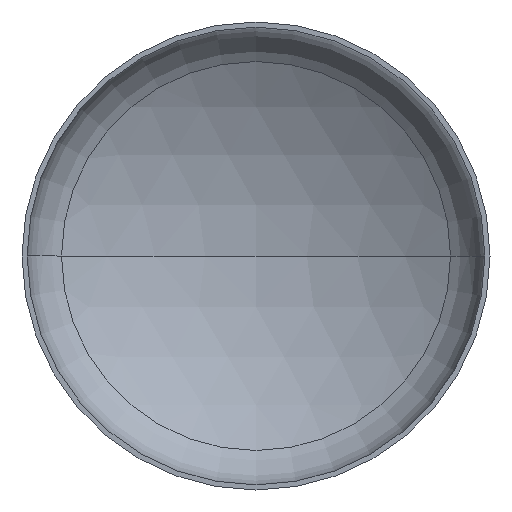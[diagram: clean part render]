
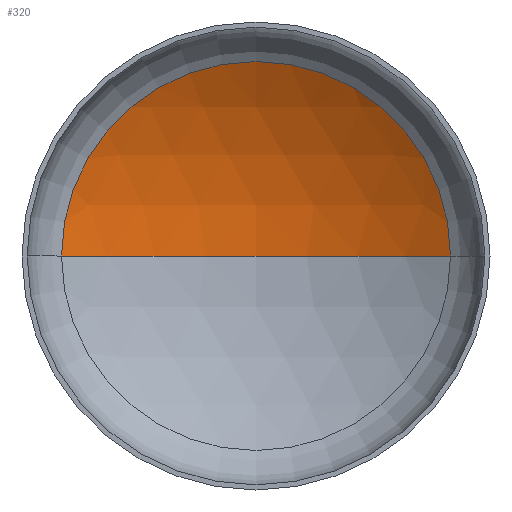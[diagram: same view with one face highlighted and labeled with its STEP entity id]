
A CAD part, front view. The second image highlights one B-rep face of the part: STEP entity #320.
In plain terms, the highlighted spherical face has radius 1520 mm.
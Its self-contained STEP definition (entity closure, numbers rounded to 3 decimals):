
#14 = AXIS2_PLACEMENT_3D ( 'NONE', #113, #294, #325 ) ;
#18 = DIRECTION ( 'NONE',  ( 1., 0., 0. ) ) ;
#25 = DIRECTION ( 'NONE',  ( 0., -1., 0. ) ) ;
#27 = ORIENTED_EDGE ( 'NONE', *, *, #149, .T. ) ;
#28 = ORIENTED_EDGE ( 'NONE', *, *, #156, .F. ) ;
#30 = AXIS2_PLACEMENT_3D ( 'NONE', #201, #253, #252 ) ;
#34 = AXIS2_PLACEMENT_3D ( 'NONE', #384, #233, #259 ) ;
#35 = AXIS2_PLACEMENT_3D ( 'NONE', #143, #25, #18 ) ;
#49 = EDGE_LOOP ( 'NONE', ( #28, #27, #195 ) ) ;
#50 = VERTEX_POINT ( 'NONE', #244 ) ;
#93 = CIRCLE ( 'NONE', #34, 1520. ) ;
#96 = VERTEX_POINT ( 'NONE', #290 ) ;
#113 = CARTESIAN_POINT ( 'NONE',  ( 0., -980.99, 0. ) ) ;
#128 = EDGE_CURVE ( 'NONE', #96, #189, #274, .T. ) ;
#143 = CARTESIAN_POINT ( 'NONE',  ( 0., 317.794, 0. ) ) ;
#149 = EDGE_CURVE ( 'NONE', #50, #96, #93, .T. ) ;
#155 = CARTESIAN_POINT ( 'NONE',  ( -789.659, 317.794, 0. ) ) ;
#156 = EDGE_CURVE ( 'NONE', #50, #189, #271, .T. ) ;
#189 = VERTEX_POINT ( 'NONE', #155 ) ;
#195 = ORIENTED_EDGE ( 'NONE', *, *, #128, .T. ) ;
#201 = CARTESIAN_POINT ( 'NONE',  ( 0., -980.99, 0. ) ) ;
#233 = DIRECTION ( 'NONE',  ( 0., 0., -1. ) ) ;
#244 = CARTESIAN_POINT ( 'NONE',  ( 0., 539.01, 0. ) ) ;
#252 = DIRECTION ( 'NONE',  ( 1., 0., 0. ) ) ;
#253 = DIRECTION ( 'NONE',  ( 0., 0., 1. ) ) ;
#259 = DIRECTION ( 'NONE',  ( -1., 0., 0. ) ) ;
#271 = CIRCLE ( 'NONE', #30, 1520. ) ;
#274 = CIRCLE ( 'NONE', #35, 789.659 ) ;
#290 = CARTESIAN_POINT ( 'NONE',  ( 789.659, 317.794, 0. ) ) ;
#294 = DIRECTION ( 'NONE',  ( 0., 0., -1. ) ) ;
#304 = SPHERICAL_SURFACE ( 'NONE', #14, 1520. ) ;
#313 = FACE_OUTER_BOUND ( 'NONE', #49, .T. ) ;
#320 = ADVANCED_FACE ( 'NONE', ( #313 ), #304, .F. ) ;
#325 = DIRECTION ( 'NONE',  ( -1., 0., 0. ) ) ;
#384 = CARTESIAN_POINT ( 'NONE',  ( 0., -980.99, 0. ) ) ;
